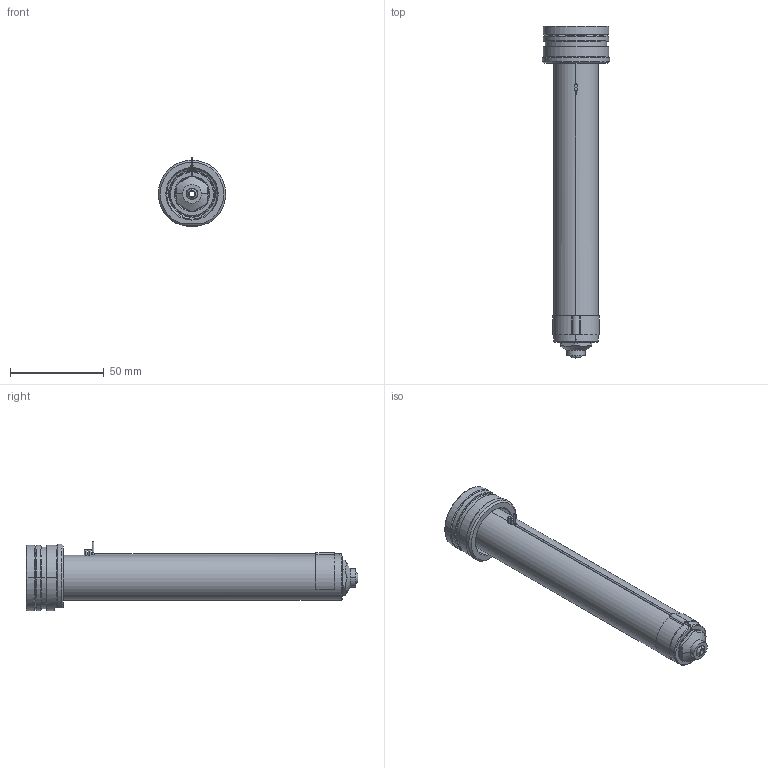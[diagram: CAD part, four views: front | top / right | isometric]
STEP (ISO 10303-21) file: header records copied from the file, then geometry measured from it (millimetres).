
FILE_DESCRIPTION((''),'2;1');
FILE_NAME('EO06_VG-BL_WR_160_SW','2024-02-19T13:04:15',('sundharh'),(''),'CREO PARAMETRIC BY PTC INC, 2023154','CREO PARAMETRIC BY PTC INC, 2023154','');
FILE_SCHEMA(('CONFIG_CONTROL_DESIGN'));
Length unit declared in the file: millimetre
Products named in the file (1): EO06_VG-BL_WR_160_SW
Bounding box: 35.93 x 177.5 x 37 mm (x, y, z)
Volume: 81141.1 mm3; surface area: 22526.9 mm2
Topology: 2 solids, 2 shells, 198 faces, 493 edges, 295 vertices
Faces by surface type: cylinder 76, plane 41, cone 36, torus 27, bspline 16, sphere 2
Entity records: 6863 total; most frequent: CARTESIAN_POINT 2109, DIRECTION 1056, ORIENTED_EDGE 970, EDGE_CURVE 485, AXIS2_PLACEMENT_3D 445, VERTEX_POINT 295, CIRCLE 263, EDGE_LOOP 212
